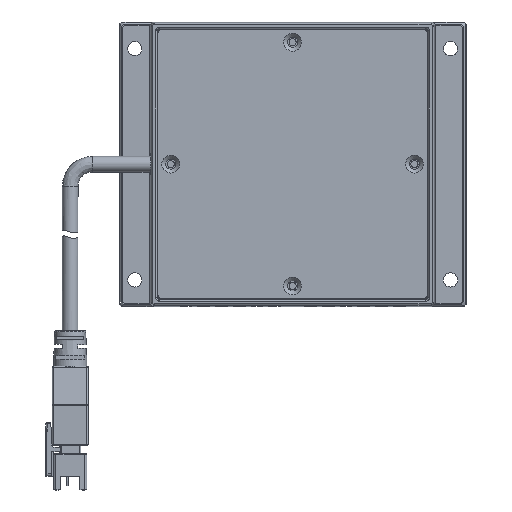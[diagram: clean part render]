
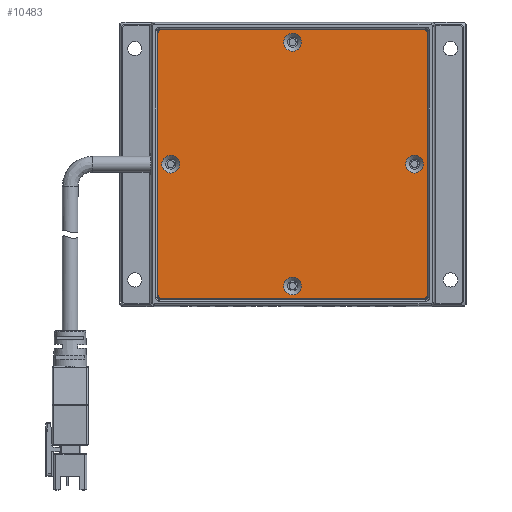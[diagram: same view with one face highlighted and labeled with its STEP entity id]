
A CAD part, top view. The second image highlights one B-rep face of the part: STEP entity #10483.
In plain terms, the highlighted planar face has unit normal (0, 0, 1).
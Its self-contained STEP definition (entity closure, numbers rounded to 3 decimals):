
#367 = DIRECTION ( 'NONE',  ( 0., 0., 1. ) ) ;
#786 = DIRECTION ( 'NONE',  ( 0., 0., -1. ) ) ;
#1200 = EDGE_CURVE ( 'NONE', #7778, #18458, #13057, .T. ) ;
#1318 = DIRECTION ( 'NONE',  ( 1., 0., 0. ) ) ;
#1345 = CARTESIAN_POINT ( 'NONE',  ( -29.3, 30.3, 19. ) ) ;
#1994 = CARTESIAN_POINT ( 'NONE',  ( -30.3, 30.3, 19. ) ) ;
#2155 = CIRCLE ( 'NONE', #20220, 1. ) ;
#2161 = DIRECTION ( 'NONE',  ( -1., 0., 0. ) ) ;
#2189 = AXIS2_PLACEMENT_3D ( 'NONE', #21153, #786, #2812 ) ;
#2239 = DIRECTION ( 'NONE',  ( 1., 0., 0. ) ) ;
#2736 = FACE_BOUND ( 'NONE', #4344, .T. ) ;
#2812 = DIRECTION ( 'NONE',  ( -1., 0., 0. ) ) ;
#3319 = ORIENTED_EDGE ( 'NONE', *, *, #8578, .T. ) ;
#4248 = EDGE_CURVE ( 'NONE', #10380, #7778, #9149, .T. ) ;
#4344 = EDGE_LOOP ( 'NONE', ( #13887 ) ) ;
#4615 = AXIS2_PLACEMENT_3D ( 'NONE', #18686, #9471, #2161 ) ;
#4991 = CIRCLE ( 'NONE', #10227, 1. ) ;
#5037 = VERTEX_POINT ( 'NONE', #5408 ) ;
#5043 = CARTESIAN_POINT ( 'NONE',  ( -30.3, 29.3, 19. ) ) ;
#5050 = AXIS2_PLACEMENT_3D ( 'NONE', #13436, #367, #2239 ) ;
#5066 = EDGE_CURVE ( 'NONE', #5343, #5343, #9728, .T. ) ;
#5071 = CIRCLE ( 'NONE', #12723, 2. ) ;
#5291 = LINE ( 'NONE', #22420, #13985 ) ;
#5317 = VERTEX_POINT ( 'NONE', #20037 ) ;
#5343 = VERTEX_POINT ( 'NONE', #16543 ) ;
#5408 = CARTESIAN_POINT ( 'NONE',  ( -25.4, 0., 19. ) ) ;
#5494 = EDGE_LOOP ( 'NONE', ( #22676 ) ) ;
#5543 = DIRECTION ( 'NONE',  ( 0., 0., 1. ) ) ;
#5703 = DIRECTION ( 'NONE',  ( -1., 0., 0. ) ) ;
#6150 = DIRECTION ( 'NONE',  ( -1., 0., 0. ) ) ;
#7085 = FACE_BOUND ( 'NONE', #16029, .T. ) ;
#7137 = EDGE_LOOP ( 'NONE', ( #22749 ) ) ;
#7151 = EDGE_CURVE ( 'NONE', #18642, #17467, #4991, .T. ) ;
#7451 = VECTOR ( 'NONE', #11263, 1000. ) ;
#7521 = ORIENTED_EDGE ( 'NONE', *, *, #4248, .T. ) ;
#7642 = VERTEX_POINT ( 'NONE', #23883 ) ;
#7778 = VERTEX_POINT ( 'NONE', #14646 ) ;
#7804 = DIRECTION ( 'NONE',  ( 1., 0., 0. ) ) ;
#8578 = EDGE_CURVE ( 'NONE', #17467, #19260, #13832, .T. ) ;
#8608 = DIRECTION ( 'NONE',  ( 0., 0., 1. ) ) ;
#8833 = LINE ( 'NONE', #13713, #13483 ) ;
#8857 = CARTESIAN_POINT ( 'NONE',  ( 0., -27.4, 19. ) ) ;
#9095 = AXIS2_PLACEMENT_3D ( 'NONE', #20984, #9868, #6150 ) ;
#9149 = LINE ( 'NONE', #16851, #23376 ) ;
#9471 = DIRECTION ( 'NONE',  ( 0., 0., 1. ) ) ;
#9489 = VERTEX_POINT ( 'NONE', #16107 ) ;
#9593 = DIRECTION ( 'NONE',  ( 1., 0., 0. ) ) ;
#9659 = CARTESIAN_POINT ( 'NONE',  ( -27.4, 0., 19. ) ) ;
#9728 = CIRCLE ( 'NONE', #20759, 2. ) ;
#9868 = DIRECTION ( 'NONE',  ( 0., 0., 1. ) ) ;
#9896 = EDGE_CURVE ( 'NONE', #9489, #18642, #8833, .T. ) ;
#10140 = CIRCLE ( 'NONE', #9095, 1. ) ;
#10227 = AXIS2_PLACEMENT_3D ( 'NONE', #20547, #5543, #5703 ) ;
#10380 = VERTEX_POINT ( 'NONE', #22773 ) ;
#10483 = ADVANCED_FACE ( 'NONE', ( #12025, #2736, #12601, #7085, #11445 ), #15555, .F. ) ;
#10842 = CARTESIAN_POINT ( 'NONE',  ( 30.3, 29.3, 19. ) ) ;
#11120 = DIRECTION ( 'NONE',  ( 0., 0., 1. ) ) ;
#11263 = DIRECTION ( 'NONE',  ( 0., -1., 0. ) ) ;
#11445 = FACE_OUTER_BOUND ( 'NONE', #14127, .T. ) ;
#11640 = CARTESIAN_POINT ( 'NONE',  ( 27.4, 0., 19. ) ) ;
#12025 = FACE_BOUND ( 'NONE', #7137, .T. ) ;
#12601 = FACE_BOUND ( 'NONE', #5494, .T. ) ;
#12723 = AXIS2_PLACEMENT_3D ( 'NONE', #9659, #20158, #7804 ) ;
#12771 = ORIENTED_EDGE ( 'NONE', *, *, #17178, .T. ) ;
#13057 = CIRCLE ( 'NONE', #4615, 1. ) ;
#13167 = EDGE_CURVE ( 'NONE', #22180, #9489, #10140, .T. ) ;
#13436 = CARTESIAN_POINT ( 'NONE',  ( 0., 27.4, 19. ) ) ;
#13483 = VECTOR ( 'NONE', #20944, 1000. ) ;
#13573 = DIRECTION ( 'NONE',  ( 0., 0., 1. ) ) ;
#13713 = CARTESIAN_POINT ( 'NONE',  ( 30.3, 30.3, 19. ) ) ;
#13832 = LINE ( 'NONE', #1994, #7451 ) ;
#13887 = ORIENTED_EDGE ( 'NONE', *, *, #15267, .F. ) ;
#13915 = CARTESIAN_POINT ( 'NONE',  ( -30.3, -29.3, 19. ) ) ;
#13985 = VECTOR ( 'NONE', #18574, 1000. ) ;
#14127 = EDGE_LOOP ( 'NONE', ( #7521, #14493, #12771, #14842, #15023, #22212, #3319, #16448 ) ) ;
#14493 = ORIENTED_EDGE ( 'NONE', *, *, #1200, .T. ) ;
#14646 = CARTESIAN_POINT ( 'NONE',  ( 29.3, -30.3, 19. ) ) ;
#14842 = ORIENTED_EDGE ( 'NONE', *, *, #13167, .T. ) ;
#15023 = ORIENTED_EDGE ( 'NONE', *, *, #9896, .T. ) ;
#15267 = EDGE_CURVE ( 'NONE', #5037, #5037, #5071, .T. ) ;
#15555 = PLANE ( 'NONE',  #2189 ) ;
#15605 = ORIENTED_EDGE ( 'NONE', *, *, #20426, .F. ) ;
#16029 = EDGE_LOOP ( 'NONE', ( #15605 ) ) ;
#16107 = CARTESIAN_POINT ( 'NONE',  ( 29.3, 30.3, 19. ) ) ;
#16448 = ORIENTED_EDGE ( 'NONE', *, *, #23092, .T. ) ;
#16514 = CIRCLE ( 'NONE', #5050, 2. ) ;
#16529 = DIRECTION ( 'NONE',  ( 1., 0., 0. ) ) ;
#16543 = CARTESIAN_POINT ( 'NONE',  ( 29.4, 0., 19. ) ) ;
#16851 = CARTESIAN_POINT ( 'NONE',  ( 30.3, -30.3, 19. ) ) ;
#17178 = EDGE_CURVE ( 'NONE', #18458, #22180, #5291, .T. ) ;
#17467 = VERTEX_POINT ( 'NONE', #5043 ) ;
#18458 = VERTEX_POINT ( 'NONE', #23496 ) ;
#18574 = DIRECTION ( 'NONE',  ( 0., 1., 0. ) ) ;
#18642 = VERTEX_POINT ( 'NONE', #1345 ) ;
#18686 = CARTESIAN_POINT ( 'NONE',  ( 29.3, -29.3, 19. ) ) ;
#18814 = AXIS2_PLACEMENT_3D ( 'NONE', #8857, #8608, #1318 ) ;
#19260 = VERTEX_POINT ( 'NONE', #13915 ) ;
#20037 = CARTESIAN_POINT ( 'NONE',  ( 2., 27.4, 19. ) ) ;
#20158 = DIRECTION ( 'NONE',  ( 0., 0., 1. ) ) ;
#20220 = AXIS2_PLACEMENT_3D ( 'NONE', #20377, #11120, #24077 ) ;
#20377 = CARTESIAN_POINT ( 'NONE',  ( -29.3, -29.3, 19. ) ) ;
#20426 = EDGE_CURVE ( 'NONE', #5317, #5317, #16514, .T. ) ;
#20547 = CARTESIAN_POINT ( 'NONE',  ( -29.3, 29.3, 19. ) ) ;
#20759 = AXIS2_PLACEMENT_3D ( 'NONE', #11640, #13573, #9593 ) ;
#20944 = DIRECTION ( 'NONE',  ( -1., 0., 0. ) ) ;
#20984 = CARTESIAN_POINT ( 'NONE',  ( 29.3, 29.3, 19. ) ) ;
#21153 = CARTESIAN_POINT ( 'NONE',  ( 0., 0., 19. ) ) ;
#21194 = EDGE_CURVE ( 'NONE', #7642, #7642, #21732, .T. ) ;
#21732 = CIRCLE ( 'NONE', #18814, 2. ) ;
#22180 = VERTEX_POINT ( 'NONE', #10842 ) ;
#22212 = ORIENTED_EDGE ( 'NONE', *, *, #7151, .T. ) ;
#22420 = CARTESIAN_POINT ( 'NONE',  ( 30.3, 30.3, 19. ) ) ;
#22676 = ORIENTED_EDGE ( 'NONE', *, *, #21194, .F. ) ;
#22749 = ORIENTED_EDGE ( 'NONE', *, *, #5066, .F. ) ;
#22773 = CARTESIAN_POINT ( 'NONE',  ( -29.3, -30.3, 19. ) ) ;
#23092 = EDGE_CURVE ( 'NONE', #19260, #10380, #2155, .T. ) ;
#23376 = VECTOR ( 'NONE', #16529, 1000. ) ;
#23496 = CARTESIAN_POINT ( 'NONE',  ( 30.3, -29.3, 19. ) ) ;
#23883 = CARTESIAN_POINT ( 'NONE',  ( 2., -27.4, 19. ) ) ;
#24077 = DIRECTION ( 'NONE',  ( -1., 0., 0. ) ) ;
